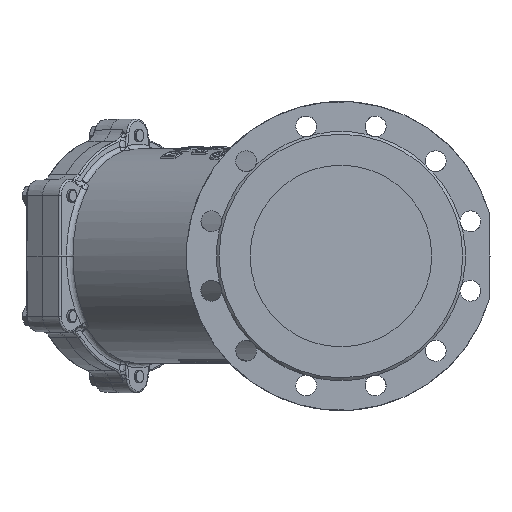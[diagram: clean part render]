
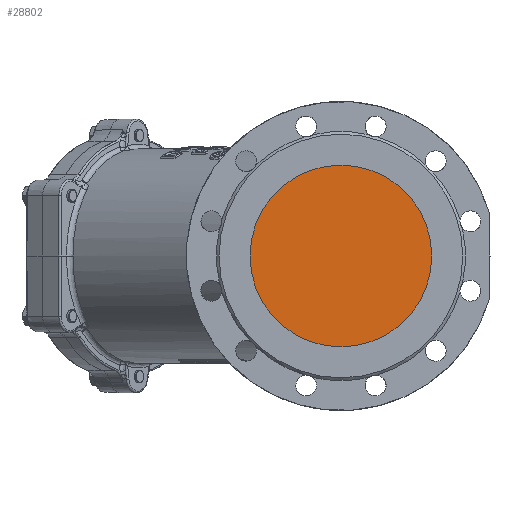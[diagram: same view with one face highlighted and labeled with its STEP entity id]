
A CAD part, left-side view. The second image highlights one B-rep face of the part: STEP entity #28802.
In plain terms, the highlighted planar face has unit normal (-1, 0, 0).
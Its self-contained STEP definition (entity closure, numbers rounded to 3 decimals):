
#4533 = CARTESIAN_POINT ( 'NONE',  ( -220.712, 0., -100. ) ) ;
#6065 = EDGE_CURVE ( 'NONE', #65375, #65375, #57810, .T. ) ;
#11387 = DIRECTION ( 'NONE',  ( 0., 0., -1. ) ) ;
#13225 = CARTESIAN_POINT ( 'NONE',  ( -220.712, 0., 0. ) ) ;
#15970 = ORIENTED_EDGE ( 'NONE', *, *, #6065, .F. ) ;
#26803 = EDGE_LOOP ( 'NONE', ( #15970 ) ) ;
#27206 = CARTESIAN_POINT ( 'NONE',  ( -220.712, 0., 0. ) ) ;
#28802 = ADVANCED_FACE ( 'NONE', ( #36185 ), #36539, .F. ) ;
#36185 = FACE_OUTER_BOUND ( 'NONE', #26803, .T. ) ;
#36539 = PLANE ( 'NONE',  #47079 ) ;
#47079 = AXIS2_PLACEMENT_3D ( 'NONE', #13225, #57584, #52571 ) ;
#48995 = DIRECTION ( 'NONE',  ( 1., 0., 0. ) ) ;
#49759 = AXIS2_PLACEMENT_3D ( 'NONE', #27206, #48995, #11387 ) ;
#52571 = DIRECTION ( 'NONE',  ( 0., 0., -1. ) ) ;
#57584 = DIRECTION ( 'NONE',  ( 1., 0., 0. ) ) ;
#57810 = CIRCLE ( 'NONE', #49759, 100. ) ;
#65375 = VERTEX_POINT ( 'NONE', #4533 ) ;
